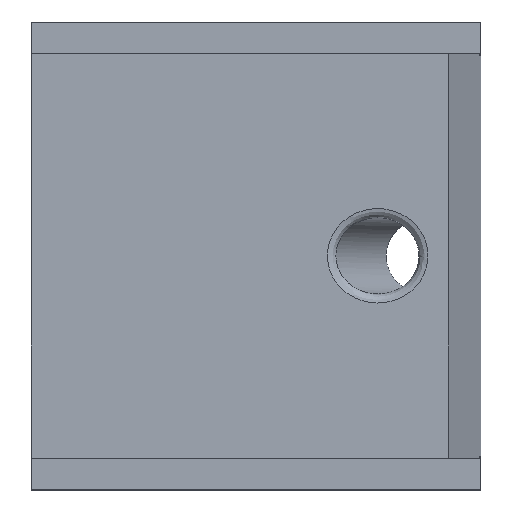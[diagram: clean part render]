
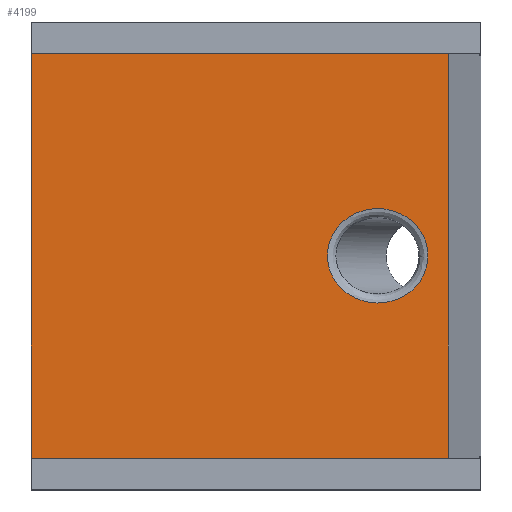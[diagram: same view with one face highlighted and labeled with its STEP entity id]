
A CAD part, top view. The second image highlights one B-rep face of the part: STEP entity #4199.
In plain terms, the highlighted planar face has unit normal (0, 0, 1).
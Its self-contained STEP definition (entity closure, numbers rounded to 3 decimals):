
#368 = DIRECTION ( 'NONE',  ( 0., -1., 0. ) ) ;
#951 = VECTOR ( 'NONE', #10374, 1000. ) ;
#1137 = CARTESIAN_POINT ( 'NONE',  ( 44.111, 10.5, 16. ) ) ;
#1312 = VECTOR ( 'NONE', #10522, 1000. ) ;
#1406 = ORIENTED_EDGE ( 'NONE', *, *, #7028, .T. ) ;
#1475 = AXIS2_PLACEMENT_3D ( 'NONE', #5883, #8999, #6762 ) ;
#1667 = LINE ( 'NONE', #5007, #4362 ) ;
#1842 = CARTESIAN_POINT ( 'NONE',  ( 44.111, -10.5, 16. ) ) ;
#1949 = VERTEX_POINT ( 'NONE', #2871 ) ;
#2012 = CARTESIAN_POINT ( 'NONE',  ( 32.937, 10.5, 16. ) ) ;
#2128 = VERTEX_POINT ( 'NONE', #10701 ) ;
#2427 = PLANE ( 'NONE',  #1475 ) ;
#2671 = ORIENTED_EDGE ( 'NONE', *, *, #3332, .F. ) ;
#2739 = VERTEX_POINT ( 'NONE', #4380 ) ;
#2871 = CARTESIAN_POINT ( 'NONE',  ( 44.111, 0., 16. ) ) ;
#3079 = LINE ( 'NONE', #9597, #1312 ) ;
#3332 = EDGE_CURVE ( 'NONE', #2128, #9978, #3703, .T. ) ;
#3703 = LINE ( 'NONE', #7908, #951 ) ;
#3915 = FACE_BOUND ( 'NONE', #6632, .T. ) ;
#4199 = ADVANCED_FACE ( 'NONE', ( #3915, #10589 ), #2427, .F. ) ;
#4362 = VECTOR ( 'NONE', #7512, 1000. ) ;
#4380 = CARTESIAN_POINT ( 'NONE',  ( 0., 22.5, 16. ) ) ;
#4533 = CARTESIAN_POINT ( 'NONE',  ( 44.111, 0., 16. ) ) ;
#5007 = CARTESIAN_POINT ( 'NONE',  ( 0., 22.5, 16. ) ) ;
#5298 = CARTESIAN_POINT ( 'NONE',  ( 32.937, -10.5, 16. ) ) ;
#5343 = LINE ( 'NONE', #6869, #7228 ) ;
#5883 = CARTESIAN_POINT ( 'NONE',  ( 0., 22.5, 16. ) ) ;
#6235 = EDGE_CURVE ( 'NONE', #10403, #9978, #3079, .T. ) ;
#6632 = EDGE_LOOP ( 'NONE', ( #8429 ) ) ;
#6648 = EDGE_CURVE ( 'NONE', #1949, #1949, #10131, .T. ) ;
#6703 = EDGE_LOOP ( 'NONE', ( #8561, #2671, #6895, #1406 ) ) ;
#6762 = DIRECTION ( 'NONE',  ( -1., 0., 0. ) ) ;
#6869 = CARTESIAN_POINT ( 'NONE',  ( 0., 22.5, 16. ) ) ;
#6895 = ORIENTED_EDGE ( 'NONE', *, *, #7229, .F. ) ;
#7028 = EDGE_CURVE ( 'NONE', #2739, #10403, #5343, .T. ) ;
#7228 = VECTOR ( 'NONE', #368, 1000. ) ;
#7229 = EDGE_CURVE ( 'NONE', #2739, #2128, #1667, .T. ) ;
#7512 = DIRECTION ( 'NONE',  ( 1., 0., 0. ) ) ;
#7861 = CARTESIAN_POINT ( 'NONE',  ( 44.111, 0., 16. ) ) ;
#7908 = CARTESIAN_POINT ( 'NONE',  ( 46.36, 22.5, 16. ) ) ;
#8429 = ORIENTED_EDGE ( 'NONE', *, *, #6648, .T. ) ;
#8561 = ORIENTED_EDGE ( 'NONE', *, *, #6235, .T. ) ;
#8999 = DIRECTION ( 'NONE',  ( 0., 0., -1. ) ) ;
#9259 = CARTESIAN_POINT ( 'NONE',  ( 46.36, -22.5, 16. ) ) ;
#9461 = CARTESIAN_POINT ( 'NONE',  ( 0., -22.5, 16. ) ) ;
#9510 = CARTESIAN_POINT ( 'NONE',  ( 32.937, 0., 16. ) ) ;
#9597 = CARTESIAN_POINT ( 'NONE',  ( 0., -22.5, 16. ) ) ;
#9978 = VERTEX_POINT ( 'NONE', #9259 ) ;
#10131 =( BOUNDED_CURVE ( )  B_SPLINE_CURVE ( 3, ( #4533, #1842, #5298, #9510, #2012, #1137, #7861 ),
 .UNSPECIFIED., .T., .F. ) 
 B_SPLINE_CURVE_WITH_KNOTS ( ( 4, 3, 4 ),
 ( 0., 3.142, 6.283 ),
 .UNSPECIFIED. ) 
 CURVE ( )  GEOMETRIC_REPRESENTATION_ITEM ( )  RATIONAL_B_SPLINE_CURVE ( ( 1., 0.333, 0.333, 1., 0.333, 0.333, 1. ) ) 
 REPRESENTATION_ITEM ( '' )  );
#10374 = DIRECTION ( 'NONE',  ( 0., -1., 0. ) ) ;
#10403 = VERTEX_POINT ( 'NONE', #9461 ) ;
#10522 = DIRECTION ( 'NONE',  ( 1., 0., 0. ) ) ;
#10589 = FACE_OUTER_BOUND ( 'NONE', #6703, .T. ) ;
#10701 = CARTESIAN_POINT ( 'NONE',  ( 46.36, 22.5, 16. ) ) ;
